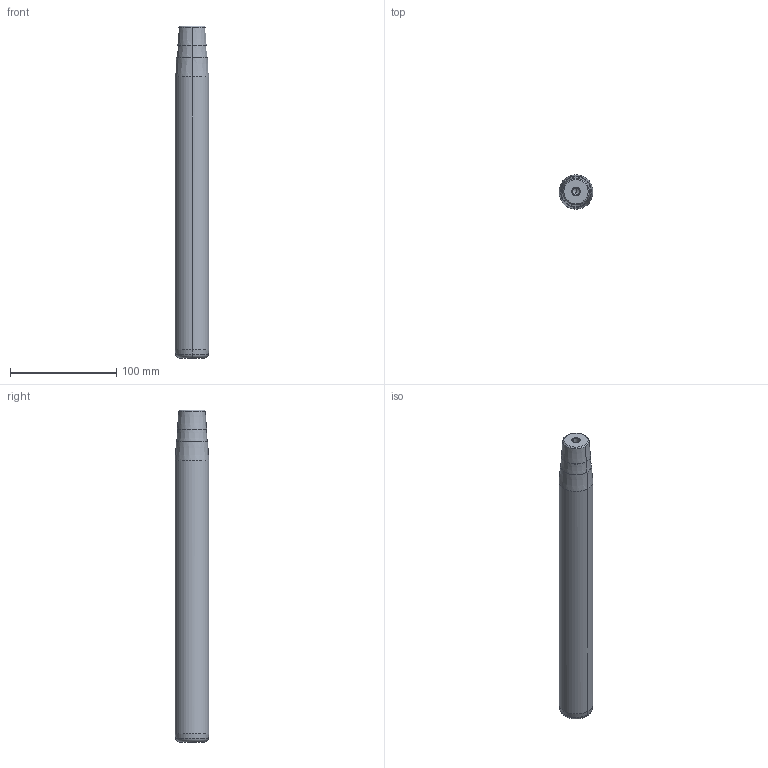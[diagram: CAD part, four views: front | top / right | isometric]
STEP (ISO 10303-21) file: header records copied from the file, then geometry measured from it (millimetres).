
FILE_DESCRIPTION(('CATIA V5 STEP Exchange'),'2;1');
FILE_NAME('C:\Users\Utente\Desktop\IO LAVORO\3D X SITO CF\X SITO\722\722-32x280x313.stp','2021-01-08T16:07:26+00:00',('none'),('none'),'CATIA Version 5 Release 20 GA (IN-10)','CATIA V5 STEP AP203','none');
FILE_SCHEMA(('CONFIG_CONTROL_DESIGN'));
Length unit declared in the file: millimetre
Products named in the file (1): 722-32x280x313
Bounding box: 32 x 32 x 313 mm (x, y, z)
Volume: 240818.5 mm3; surface area: 33040.9 mm2
Topology: 1 solids, 1 shells, 32 faces, 98 edges, 66 vertices
Faces by surface type: cone 22, cylinder 6, plane 2, torus 2
Entity records: 1166 total; most frequent: CARTESIAN_POINT 279, ORIENTED_EDGE 188, DIRECTION 148, EDGE_CURVE 94, AXIS2_PLACEMENT_3D 89, VERTEX_POINT 66, CIRCLE 56, EDGE_LOOP 34
